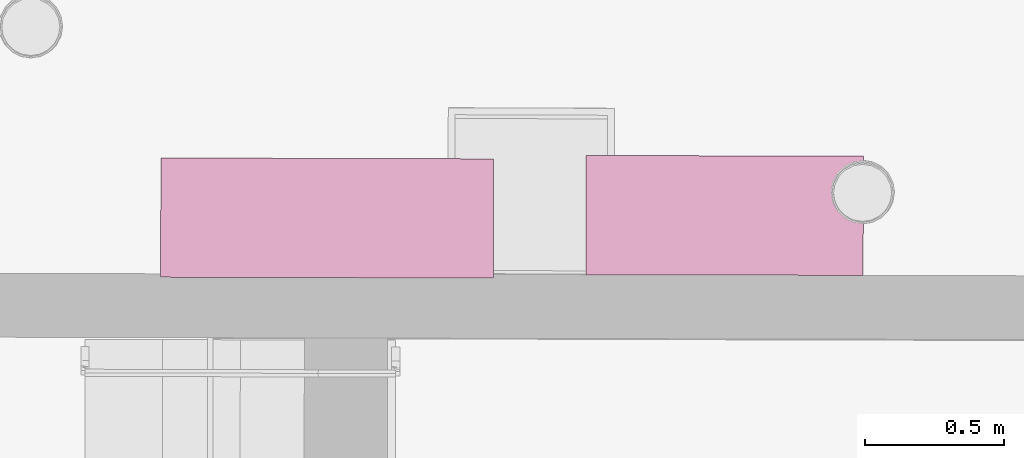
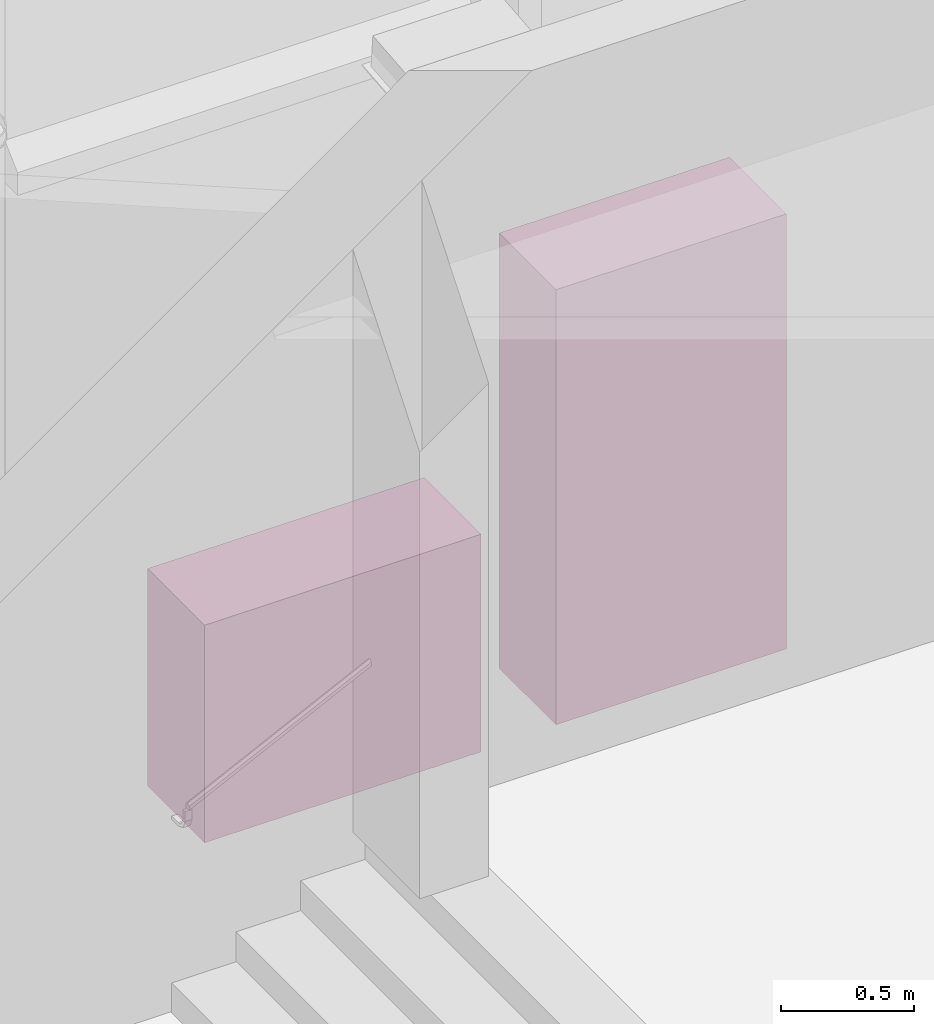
# One storey, part 82 of 128: 2 furnishings.
"""IFC2X3 building model written with IfcOpenShell, lengths in metres."""

from ifc_helpers import new_model, entity, si_unit, converted_unit, derived_unit, direction, frame, origin, origin_2d_with_axis, place, context, subcontext, project, spatial, rectangle, extrude, source, transform, mapped, material, type_object, type_shapes, element, save


model = new_model("IFC2X3")

# Units and contexts
model_context = context("Model", 3, precision=1e-05, world=origin(), true_north=direction((6.123031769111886e-17, 1.0)))
body_context = subcontext(model_context, "Body", "Model", "MODEL_VIEW")
ifc_project = project(units=[si_unit("LENGTHUNIT", "METRE"), si_unit("AREAUNIT", "SQUARE_METRE"), converted_unit("PLANEANGLEUNIT", "DEGREE", entity("IfcPlaneAngleMeasure", 0.017453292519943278), si_unit("PLANEANGLEUNIT", "RADIAN"), dimensions=[0, 0, 0, 0, 0, 0, 0]), derived_unit("THERMALTRANSMITTANCEUNIT", [(si_unit("MASSUNIT", "GRAM", prefix="KILO"), 1), (si_unit("THERMODYNAMICTEMPERATUREUNIT", "KELVIN"), -1), (si_unit("TIMEUNIT", "SECOND"), -3)])], contexts=[model_context])

# Site, building, storey
site_placement = place(None, origin())
site = spatial("IfcSite", under=ifc_project, at=site_placement, Name="Default", CompositionType="ELEMENT")
building_placement = place(site_placement, origin())
building = spatial("IfcBuilding", under=site, at=building_placement, CompositionType="ELEMENT")
storey_placement = place(building_placement, origin())
storey = spatial("IfcBuildingStorey", under=building, at=storey_placement, Name="00_RDC CAF", CompositionType="ELEMENT", Elevation=2.4982504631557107e-13)

# Furnishings
ifc_material = material(Name="ARC - Mo - Blanc")
furniture_type_1 = type_object("IfcFurnitureType", Name="Mo_Armoire_Porte_Coulissante:Mo_Armoire_Haute_1000x430x2000mm", AssemblyPlace="NOTDEFINED", material=ifc_material)
shared_shape_1 = source(origin(), body_context, "Body", "SweptSolid", [
    extrude(rectangle(XDim=0.9999999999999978, YDim=0.4300000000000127, at=origin_2d_with_axis()), frame((0.04470032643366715, -0.2150000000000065, 0.0), z_axis=(0.0, 0.0, 1.0), x_axis=(-1.0, 0.0, 0.0)), (0.0, 0.0, 1.0), 2.0),
])
type_shapes(furniture_type_1, [shared_shape_1])
furnishing_1_placement = place(storey_placement, frame((11.148814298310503, 130.24336448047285, 0.0), z_axis=(0.0, 0.0, 1.0), x_axis=(-0.9999973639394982, 0.0022961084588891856, 0.0)))
element("IfcFurnishingElement", 1, at=furnishing_1_placement, inside=storey, type_object=furniture_type_1, material=ifc_material, Name="Mo_Armoire_Porte_Coulissante:Mo_Armoire_Haute_1000x430x2000mm", ObjectType="Mo_Armoire_Porte_Coulissante:Mo_Armoire_Haute_1000x430x2000mm", context=body_context, shape_type="MappedRepresentation", body=[
    mapped(shared_shape_1, transform((0.0, 0.0, 0.0), scale=1.0)),
])
furniture_type_2 = type_object("IfcFurnitureType", Name="Mo_Armoire_Porte_Coulissante:Mo_Armoire_basse_1200x430x1000mm", AssemblyPlace="NOTDEFINED", material=ifc_material)
shared_shape_2 = source(origin(), body_context, "Body", "SweptSolid", [
    extrude(rectangle(XDim=1.200000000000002, YDim=0.43000000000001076, at=origin_2d_with_axis()), frame((0.04470032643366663, -0.2150000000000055, 0.0), z_axis=(0.0, 0.0, 1.0), x_axis=(-1.0, 0.0, 0.0)), (0.0, 0.0, 1.0), 1.0),
])
type_shapes(furniture_type_2, [shared_shape_2])
furnishing_2_placement = place(storey_placement, frame((9.715851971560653, 130.2340247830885, 0.0), z_axis=(0.0, 0.0, 1.0), x_axis=(-0.9999964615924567, 0.002660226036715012, 0.0)))
element("IfcFurnishingElement", 2, at=furnishing_2_placement, inside=storey, type_object=furniture_type_2, material=ifc_material, Name="Mo_Armoire_Porte_Coulissante:Mo_Armoire_basse_1200x430x1000mm", ObjectType="Mo_Armoire_Porte_Coulissante:Mo_Armoire_basse_1200x430x1000mm", context=body_context, shape_type="MappedRepresentation", body=[
    mapped(shared_shape_2, transform((0.0, 0.0, 0.0), scale=1.0)),
])

save(model, "model.ifc")
